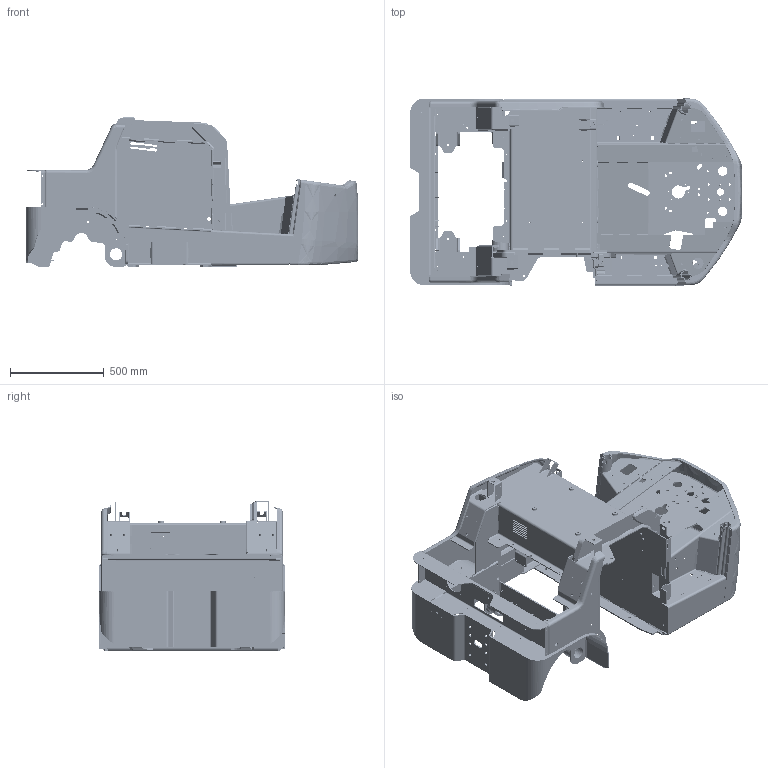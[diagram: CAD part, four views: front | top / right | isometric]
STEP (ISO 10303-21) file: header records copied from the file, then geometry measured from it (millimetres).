
FILE_DESCRIPTION(/* description */ (''),/* implementation_level */ '2;1');
FILE_NAME(/* name */ '11918086082m000_00.stp',/* time_stamp */ '2015-01-15T12:39:02+01:00',/* author */ (''),/* organization */ (''),/* preprocessor_version */ 'ST-DEVELOPER v11',/* originating_system */ 'SIEMENS PLM Software NX 7.5',/* authorisation */ '');
FILE_SCHEMA (('AUTOMOTIVE_DESIGN { 1 0 10303 214 1 1 1 1 }'));
Products named in the file (1): fr4717897v8p
Bounding box: 1769.17 x 996 x 797.5 mm (x, y, z)
Volume: 39751577.3 mm3; surface area: 13158979 mm2
Topology: 381 solids, 381 shells, 6886 faces, 17506 edges, 11719 vertices
Faces by surface type: plane 3695, cylinder 1672, cone 819, bspline 661, torus 32, extrusion 7
Full cylindrical faces by diameter (mm): 3.242 x4, 3.6 x2, 4 x4, 4.4 x2, 4.5 x4, 4.918 x7, 5 x4, 5.6 x7, 5.9 x2, 6 x26, 6.4 x7, 6.5 x46, 6.647 x19, 6.8 x7, 7 x2, 8 x26, 8.2 x7, 8.376 x7, 8.5 x4, 9 x4, 10 x14, 10.376 x6, 10.5 x57, 11 x1, 11.835 x2, 12 x7, 12.5 x20, 13 x5, 13.5 x8, 14 x1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
Entity records: 245218 total; most frequent: CARTESIAN_POINT 81655, ORIENTED_EDGE 32864, DIRECTION 30878, EDGE_CURVE 16432, VERTEX_POINT 10933, AXIS2_PLACEMENT_3D 10760, VECTOR 9358, LINE 9351
